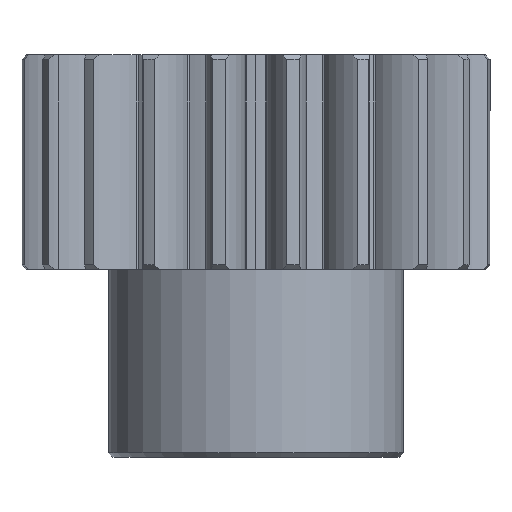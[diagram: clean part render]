
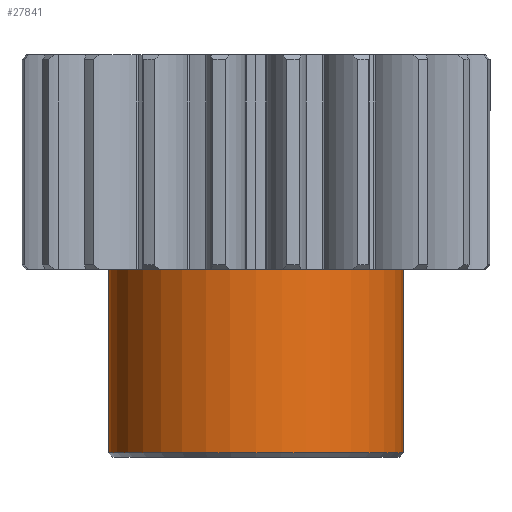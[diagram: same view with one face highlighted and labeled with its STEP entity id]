
A CAD part, left-side view. The second image highlights one B-rep face of the part: STEP entity #27841.
In plain terms, the highlighted cylindrical face has radius 27.5 mm (diameter 55 mm), a partial arc.
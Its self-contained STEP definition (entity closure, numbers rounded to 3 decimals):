
#962 = DIRECTION ( 'NONE',  ( 0., 0., -1. ) ) ;
#1196 = CARTESIAN_POINT ( 'NONE',  ( 0., 0., 0. ) ) ;
#1548 = DIRECTION ( 'NONE',  ( 0., 0., -1. ) ) ;
#1700 = DIRECTION ( 'NONE',  ( 0., 0., -1. ) ) ;
#1951 = CARTESIAN_POINT ( 'NONE',  ( 0., -27.5, 35. ) ) ;
#2001 = DIRECTION ( 'NONE',  ( 0., 1., 0. ) ) ;
#2099 = LINE ( 'NONE', #9195, #26462 ) ;
#3334 = AXIS2_PLACEMENT_3D ( 'NONE', #1196, #1700, #2001 ) ;
#3712 = CARTESIAN_POINT ( 'NONE',  ( 0., -27.5, 0. ) ) ;
#5479 = ORIENTED_EDGE ( 'NONE', *, *, #11864, .T. ) ;
#6188 = VECTOR ( 'NONE', #962, 1000. ) ;
#7020 = DIRECTION ( 'NONE',  ( 0., 0., -1. ) ) ;
#7430 = AXIS2_PLACEMENT_3D ( 'NONE', #14661, #26536, #12389 ) ;
#7795 = AXIS2_PLACEMENT_3D ( 'NONE', #27548, #1548, #8627 ) ;
#8042 = EDGE_CURVE ( 'NONE', #10118, #26002, #2099, .T. ) ;
#8298 = VERTEX_POINT ( 'NONE', #1951 ) ;
#8627 = DIRECTION ( 'NONE',  ( 0., 1., 0. ) ) ;
#9195 = CARTESIAN_POINT ( 'NONE',  ( 0., 27.5, 0. ) ) ;
#9545 = CARTESIAN_POINT ( 'NONE',  ( 0., -27.5, 0.825 ) ) ;
#9636 = FACE_OUTER_BOUND ( 'NONE', #22098, .T. ) ;
#10118 = VERTEX_POINT ( 'NONE', #20231 ) ;
#11529 = ORIENTED_EDGE ( 'NONE', *, *, #8042, .T. ) ;
#11864 = EDGE_CURVE ( 'NONE', #8298, #10118, #18252, .T. ) ;
#12389 = DIRECTION ( 'NONE',  ( 0., 1., 0. ) ) ;
#12483 = LINE ( 'NONE', #3712, #6188 ) ;
#14661 = CARTESIAN_POINT ( 'NONE',  ( 0., 0., 0.825 ) ) ;
#16312 = ORIENTED_EDGE ( 'NONE', *, *, #26467, .T. ) ;
#18252 = CIRCLE ( 'NONE', #7795, 27.5 ) ;
#18338 = CARTESIAN_POINT ( 'NONE',  ( 0., 27.5, 0.825 ) ) ;
#20231 = CARTESIAN_POINT ( 'NONE',  ( 0., 27.5, 35. ) ) ;
#22098 = EDGE_LOOP ( 'NONE', ( #25359, #5479, #11529, #16312 ) ) ;
#23292 = CIRCLE ( 'NONE', #7430, 27.5 ) ;
#25359 = ORIENTED_EDGE ( 'NONE', *, *, #29993, .F. ) ;
#26002 = VERTEX_POINT ( 'NONE', #18338 ) ;
#26462 = VECTOR ( 'NONE', #7020, 1000. ) ;
#26467 = EDGE_CURVE ( 'NONE', #26002, #29065, #23292, .T. ) ;
#26536 = DIRECTION ( 'NONE',  ( 0., 0., 1. ) ) ;
#27548 = CARTESIAN_POINT ( 'NONE',  ( 0., 0., 35. ) ) ;
#27841 = ADVANCED_FACE ( 'NONE', ( #9636 ), #30303, .T. ) ;
#29065 = VERTEX_POINT ( 'NONE', #9545 ) ;
#29993 = EDGE_CURVE ( 'NONE', #8298, #29065, #12483, .T. ) ;
#30303 = CYLINDRICAL_SURFACE ( 'NONE', #3334, 27.5 ) ;
